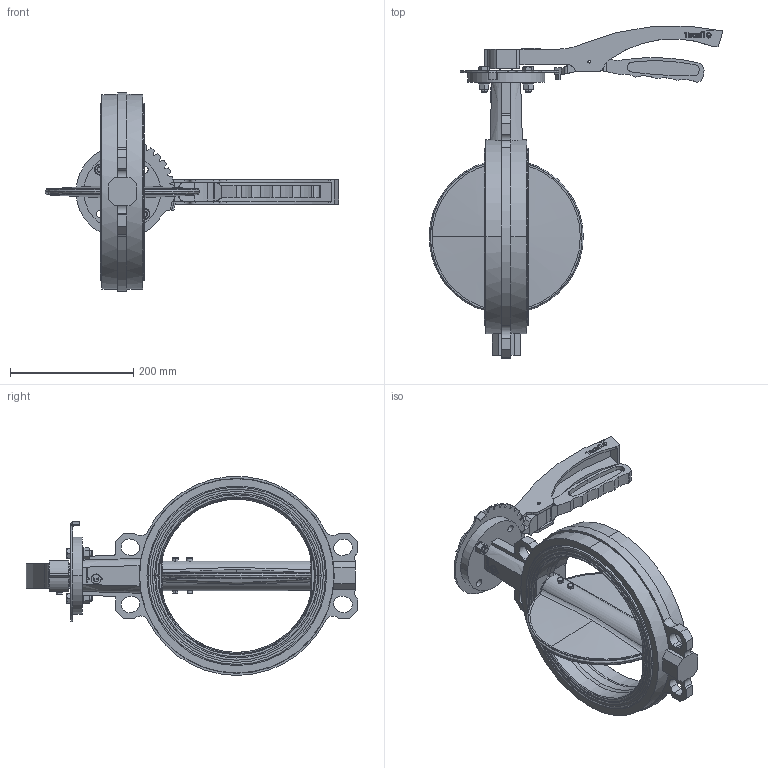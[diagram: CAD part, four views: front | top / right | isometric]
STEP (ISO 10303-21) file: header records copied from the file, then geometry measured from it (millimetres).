
FILE_DESCRIPTION (( 'STEP AP214' ), '1' );
FILE_NAME ('VPG444X-02XX0250-Défaut.step', '2022-05-19T16:19:48', ( '' ), ( '' ), 'SwSTEP 2.0', 'SolidWorks 2020', '' );
FILE_SCHEMA (( 'AUTOMOTIVE_DESIGN' ));
Length unit declared in the file: millimetre
Products named in the file (1): VPG444X-02XX0250-Défaut
Bounding box: 477.46 x 539.61 x 323.3 mm (x, y, z)
Surface area: 613307.8 mm2 (no closed solid volume)
Topology: 0 solids, 67 shells, 575 faces, 4240 edges, 3716 vertices
Faces by surface type: plane 285, cylinder 198, cone 53, bspline 39
Entity records: 61883 total; most frequent: CARTESIAN_POINT 26259, ORIENTED_EDGE 5491, DIRECTION 4944, EDGE_CURVE 4240, VERTEX_POINT 3716, LINE 2482, VECTOR 2482, AXIS2_PLACEMENT_3D 1231
